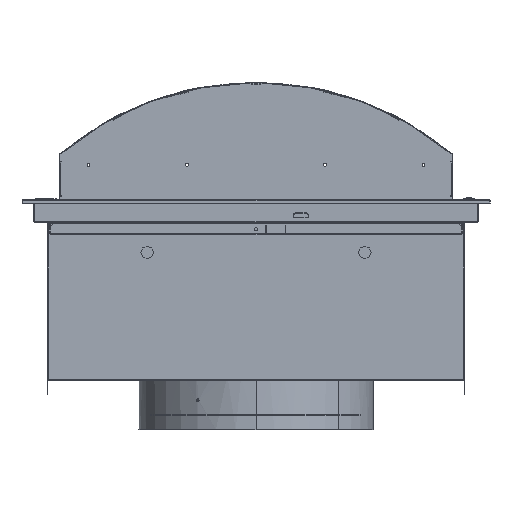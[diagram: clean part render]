
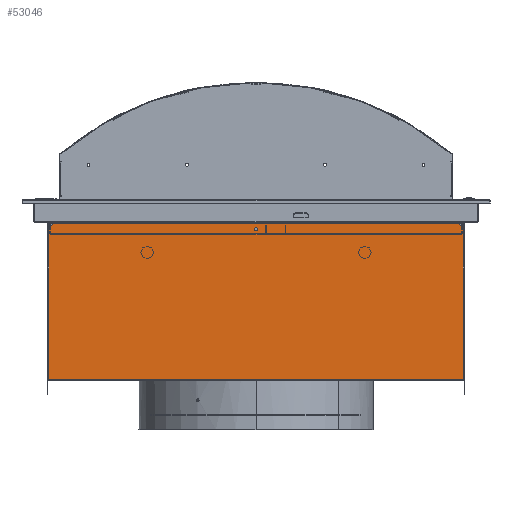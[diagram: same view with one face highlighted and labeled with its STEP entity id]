
A CAD part, left-side view. The second image highlights one B-rep face of the part: STEP entity #53046.
In plain terms, the highlighted planar face has unit normal (-1, 0, 0).
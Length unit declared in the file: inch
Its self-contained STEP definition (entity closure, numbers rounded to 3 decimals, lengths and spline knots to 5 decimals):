
#573 = AXIS2_PLACEMENT_3D ( 'NONE', #55565, #56789, #6119 ) ;
#1957 = CIRCLE ( 'NONE', #28068, 0.015 ) ;
#2356 = DIRECTION ( 'NONE',  ( 0., 0.707, 0.707 ) ) ;
#2675 = EDGE_CURVE ( 'NONE', #22091, #4293, #75782, .T. ) ;
#3321 = LINE ( 'NONE', #28229, #20800 ) ;
#4293 = VERTEX_POINT ( 'NONE', #40199 ) ;
#6046 = DIRECTION ( 'NONE',  ( 0., 0., -1. ) ) ;
#6119 = DIRECTION ( 'NONE',  ( 0., 0., -1. ) ) ;
#6470 = ORIENTED_EDGE ( 'NONE', *, *, #57170, .T. ) ;
#7095 = CARTESIAN_POINT ( 'NONE',  ( -22.56225, -0.075, -1.5796 ) ) ;
#7183 = VERTEX_POINT ( 'NONE', #52755 ) ;
#8507 = DIRECTION ( 'NONE',  ( 0., 0., 1. ) ) ;
#8920 = CIRCLE ( 'NONE', #79395, 0.015 ) ;
#9568 = ORIENTED_EDGE ( 'NONE', *, *, #49523, .T. ) ;
#10431 = ORIENTED_EDGE ( 'NONE', *, *, #49108, .T. ) ;
#11383 = CARTESIAN_POINT ( 'NONE',  ( -22.56225, -10.52225, -1.45921 ) ) ;
#11797 = VERTEX_POINT ( 'NONE', #74561 ) ;
#12208 = VECTOR ( 'NONE', #20563, 39.37008 ) ;
#12369 = CARTESIAN_POINT ( 'NONE',  ( -22.56225, 10.56225, -1.203 ) ) ;
#13029 = ORIENTED_EDGE ( 'NONE', *, *, #2675, .F. ) ;
#13627 = DIRECTION ( 'NONE',  ( 1., 0., 0. ) ) ;
#14403 = CARTESIAN_POINT ( 'NONE',  ( -22.56225, -10.52225, -9.137 ) ) ;
#14720 = VECTOR ( 'NONE', #39444, 39.37008 ) ;
#16084 = CARTESIAN_POINT ( 'NONE',  ( -22.56225, 10.26604, -1.203 ) ) ;
#16706 = CIRCLE ( 'NONE', #53217, 0.113 ) ;
#17456 = VERTEX_POINT ( 'NONE', #53264 ) ;
#17520 = AXIS2_PLACEMENT_3D ( 'NONE', #50032, #69258, #76183 ) ;
#18017 = AXIS2_PLACEMENT_3D ( 'NONE', #37273, #67913, #24601 ) ;
#18576 = ORIENTED_EDGE ( 'NONE', *, *, #38127, .T. ) ;
#19379 = VERTEX_POINT ( 'NONE', #52548 ) ;
#19744 = CARTESIAN_POINT ( 'NONE',  ( -22.56225, 0., 0. ) ) ;
#20366 = CARTESIAN_POINT ( 'NONE',  ( -22.56225, 0.075, -1.5046 ) ) ;
#20563 = DIRECTION ( 'NONE',  ( 0., 0.707, -0.707 ) ) ;
#20800 = VECTOR ( 'NONE', #53151, 39.37008 ) ;
#21946 = CIRCLE ( 'NONE', #18017, 0.015 ) ;
#22038 = CARTESIAN_POINT ( 'NONE',  ( -22.56225, 0., -1.091 ) ) ;
#22091 = VERTEX_POINT ( 'NONE', #14403 ) ;
#22769 = ORIENTED_EDGE ( 'NONE', *, *, #65460, .T. ) ;
#23231 = DIRECTION ( 'NONE',  ( 1., 0., 0. ) ) ;
#24055 = DIRECTION ( 'NONE',  ( -1., 0., 0. ) ) ;
#24601 = DIRECTION ( 'NONE',  ( 0., 0., -1. ) ) ;
#26279 = ORIENTED_EDGE ( 'NONE', *, *, #30156, .F. ) ;
#27726 = CIRCLE ( 'NONE', #51231, 0.113 ) ;
#27962 = CIRCLE ( 'NONE', #17520, 0.015 ) ;
#28068 = AXIS2_PLACEMENT_3D ( 'NONE', #54679, #24055, #35109 ) ;
#28121 = EDGE_CURVE ( 'NONE', #29088, #73621, #3321, .T. ) ;
#28229 = CARTESIAN_POINT ( 'NONE',  ( -22.56225, 10.56225, -1.203 ) ) ;
#28559 = VERTEX_POINT ( 'NONE', #68139 ) ;
#29088 = VERTEX_POINT ( 'NONE', #54831 ) ;
#29617 = ORIENTED_EDGE ( 'NONE', *, *, #50906, .T. ) ;
#30156 = EDGE_CURVE ( 'NONE', #46996, #68059, #56875, .T. ) ;
#30300 = CARTESIAN_POINT ( 'NONE',  ( -22.56225, -10.26604, -1.203 ) ) ;
#30930 = ORIENTED_EDGE ( 'NONE', *, *, #50630, .T. ) ;
#31154 = VERTEX_POINT ( 'NONE', #57278 ) ;
#31280 = VECTOR ( 'NONE', #43810, 39.37008 ) ;
#31878 = CIRCLE ( 'NONE', #573, 0.075 ) ;
#32402 = DIRECTION ( 'NONE',  ( 0., 0., -1. ) ) ;
#32719 = DIRECTION ( 'NONE',  ( 0., 0., -1. ) ) ;
#33697 = DIRECTION ( 'NONE',  ( 0., 0., 1. ) ) ;
#35109 = DIRECTION ( 'NONE',  ( 0., 0., -1. ) ) ;
#35244 = ORIENTED_EDGE ( 'NONE', *, *, #56176, .T. ) ;
#37273 = CARTESIAN_POINT ( 'NONE',  ( -22.56225, -10.26604, -1.218 ) ) ;
#37536 = CARTESIAN_POINT ( 'NONE',  ( -22.56225, 0.075, -1.5796 ) ) ;
#37600 = EDGE_CURVE ( 'NONE', #54713, #31154, #62039, .T. ) ;
#38127 = EDGE_CURVE ( 'NONE', #22091, #52874, #73825, .T. ) ;
#38146 = FACE_BOUND ( 'NONE', #46257, .T. ) ;
#38161 = LINE ( 'NONE', #7095, #54366 ) ;
#39408 = ORIENTED_EDGE ( 'NONE', *, *, #57920, .T. ) ;
#39444 = DIRECTION ( 'NONE',  ( 0., 0., 1. ) ) ;
#40199 = CARTESIAN_POINT ( 'NONE',  ( -22.56225, 10.52225, -9.137 ) ) ;
#40357 = VECTOR ( 'NONE', #8507, 39.37008 ) ;
#43672 = ORIENTED_EDGE ( 'NONE', *, *, #52767, .T. ) ;
#43810 = DIRECTION ( 'NONE',  ( 0., -1., 0. ) ) ;
#43887 = VERTEX_POINT ( 'NONE', #51672 ) ;
#44058 = DIRECTION ( 'NONE',  ( 0., 1., 0. ) ) ;
#44673 = CARTESIAN_POINT ( 'NONE',  ( -22.56225, 10.27225, -1.203 ) ) ;
#45479 = LINE ( 'NONE', #44673, #12208 ) ;
#45520 = CARTESIAN_POINT ( 'NONE',  ( -22.56225, 10.56225, -9.137 ) ) ;
#46257 = EDGE_LOOP ( 'NONE', ( #39408, #29617, #51562, #55674 ) ) ;
#46461 = LINE ( 'NONE', #65643, #73467 ) ;
#46495 = LINE ( 'NONE', #64478, #40357 ) ;
#46996 = VERTEX_POINT ( 'NONE', #16084 ) ;
#47485 = DIRECTION ( 'NONE',  ( -1., 0., 0. ) ) ;
#49108 = EDGE_CURVE ( 'NONE', #65955, #68059, #27726, .T. ) ;
#49523 = EDGE_CURVE ( 'NONE', #7183, #28559, #46461, .T. ) ;
#49650 = LINE ( 'NONE', #74602, #58392 ) ;
#49939 = CARTESIAN_POINT ( 'NONE',  ( -22.56225, 0.015, -1.203 ) ) ;
#50032 = CARTESIAN_POINT ( 'NONE',  ( -22.56225, 10.50725, -1.45921 ) ) ;
#50630 = EDGE_CURVE ( 'NONE', #17456, #19379, #27962, .T. ) ;
#50906 = EDGE_CURVE ( 'NONE', #59957, #43887, #31878, .T. ) ;
#51231 = AXIS2_PLACEMENT_3D ( 'NONE', #22038, #23231, #6046 ) ;
#51543 = ORIENTED_EDGE ( 'NONE', *, *, #70184, .F. ) ;
#51562 = ORIENTED_EDGE ( 'NONE', *, *, #54759, .T. ) ;
#51672 = CARTESIAN_POINT ( 'NONE',  ( -22.56225, -0.075, -1.5046 ) ) ;
#51708 = CARTESIAN_POINT ( 'NONE',  ( -22.56225, 10.26604, -1.218 ) ) ;
#52005 = DIRECTION ( 'NONE',  ( 0., 0., -1. ) ) ;
#52310 = DIRECTION ( 'NONE',  ( 1., 0., 0. ) ) ;
#52548 = CARTESIAN_POINT ( 'NONE',  ( -22.56225, 10.52225, -1.45921 ) ) ;
#52755 = CARTESIAN_POINT ( 'NONE',  ( -22.56225, -10.51786, -1.44861 ) ) ;
#52767 = EDGE_CURVE ( 'NONE', #52874, #7183, #1957, .T. ) ;
#52874 = VERTEX_POINT ( 'NONE', #11383 ) ;
#53046 = ADVANCED_FACE ( 'Face1', ( #38146, #63051 ), #75718, .F. ) ;
#53151 = DIRECTION ( 'NONE',  ( 0., -1., 0. ) ) ;
#53217 = AXIS2_PLACEMENT_3D ( 'NONE', #63376, #52310, #32719 ) ;
#53264 = CARTESIAN_POINT ( 'NONE',  ( -22.56225, 10.51786, -1.44861 ) ) ;
#53783 = VECTOR ( 'NONE', #44058, 39.37008 ) ;
#54366 = VECTOR ( 'NONE', #52005, 39.37008 ) ;
#54602 = ORIENTED_EDGE ( 'NONE', *, *, #28121, .F. ) ;
#54679 = CARTESIAN_POINT ( 'NONE',  ( -22.56225, -10.50725, -1.45921 ) ) ;
#54713 = VERTEX_POINT ( 'NONE', #69629 ) ;
#54759 = EDGE_CURVE ( 'NONE', #43887, #54713, #38161, .T. ) ;
#54831 = CARTESIAN_POINT ( 'NONE',  ( -22.56225, -0.015, -1.203 ) ) ;
#55565 = CARTESIAN_POINT ( 'NONE',  ( -22.56225, 0., -1.5046 ) ) ;
#55674 = ORIENTED_EDGE ( 'NONE', *, *, #37600, .T. ) ;
#56176 = EDGE_CURVE ( 'NONE', #28559, #73621, #21946, .T. ) ;
#56775 = AXIS2_PLACEMENT_3D ( 'NONE', #19744, #13627, #32402 ) ;
#56789 = DIRECTION ( 'NONE',  ( 1., 0., 0. ) ) ;
#56875 = LINE ( 'NONE', #12369, #31280 ) ;
#57140 = CARTESIAN_POINT ( 'NONE',  ( -22.56225, 0., -1.204 ) ) ;
#57170 = EDGE_CURVE ( 'NONE', #46996, #11797, #8920, .T. ) ;
#57278 = CARTESIAN_POINT ( 'NONE',  ( -22.56225, 0.075, -1.5796 ) ) ;
#57920 = EDGE_CURVE ( 'NONE', #31154, #59957, #46495, .T. ) ;
#58392 = VECTOR ( 'NONE', #33697, 39.37008 ) ;
#58576 = DIRECTION ( 'NONE',  ( 0., 1., 0. ) ) ;
#58633 = DIRECTION ( 'NONE',  ( 0., 0., -1. ) ) ;
#59444 = VECTOR ( 'NONE', #58576, 39.37008 ) ;
#59957 = VERTEX_POINT ( 'NONE', #20366 ) ;
#62039 = LINE ( 'NONE', #37536, #53783 ) ;
#63051 = FACE_OUTER_BOUND ( 'NONE', #70009, .T. ) ;
#63177 = ORIENTED_EDGE ( 'NONE', *, *, #75443, .T. ) ;
#63376 = CARTESIAN_POINT ( 'NONE',  ( -22.56225, 0., -1.091 ) ) ;
#64478 = CARTESIAN_POINT ( 'NONE',  ( -22.56225, 0.075, -1.5046 ) ) ;
#65460 = EDGE_CURVE ( 'NONE', #11797, #17456, #45479, .T. ) ;
#65643 = CARTESIAN_POINT ( 'NONE',  ( -22.56225, -10.52225, -1.453 ) ) ;
#65955 = VERTEX_POINT ( 'NONE', #57140 ) ;
#67668 = CARTESIAN_POINT ( 'NONE',  ( -22.56225, -10.52225, -9.137 ) ) ;
#67913 = DIRECTION ( 'NONE',  ( -1., 0., 0. ) ) ;
#68059 = VERTEX_POINT ( 'NONE', #49939 ) ;
#68139 = CARTESIAN_POINT ( 'NONE',  ( -22.56225, -10.27664, -1.20739 ) ) ;
#69258 = DIRECTION ( 'NONE',  ( -1., 0., 0. ) ) ;
#69629 = CARTESIAN_POINT ( 'NONE',  ( -22.56225, -0.075, -1.5796 ) ) ;
#70009 = EDGE_LOOP ( 'NONE', ( #54602, #63177, #10431, #26279, #6470, #22769, #30930, #51543, #13029, #18576, #43672, #9568, #35244 ) ) ;
#70184 = EDGE_CURVE ( 'NONE', #4293, #19379, #49650, .T. ) ;
#73467 = VECTOR ( 'NONE', #2356, 39.37008 ) ;
#73621 = VERTEX_POINT ( 'NONE', #30300 ) ;
#73825 = LINE ( 'NONE', #67668, #14720 ) ;
#74561 = CARTESIAN_POINT ( 'NONE',  ( -22.56225, 10.27664, -1.20739 ) ) ;
#74602 = CARTESIAN_POINT ( 'NONE',  ( -22.56225, 10.52225, -9.137 ) ) ;
#75443 = EDGE_CURVE ( 'NONE', #29088, #65955, #16706, .T. ) ;
#75718 = PLANE ( 'NONE',  #56775 ) ;
#75782 = LINE ( 'NONE', #45520, #59444 ) ;
#76183 = DIRECTION ( 'NONE',  ( 0., 0., -1. ) ) ;
#79395 = AXIS2_PLACEMENT_3D ( 'NONE', #51708, #47485, #58633 ) ;
